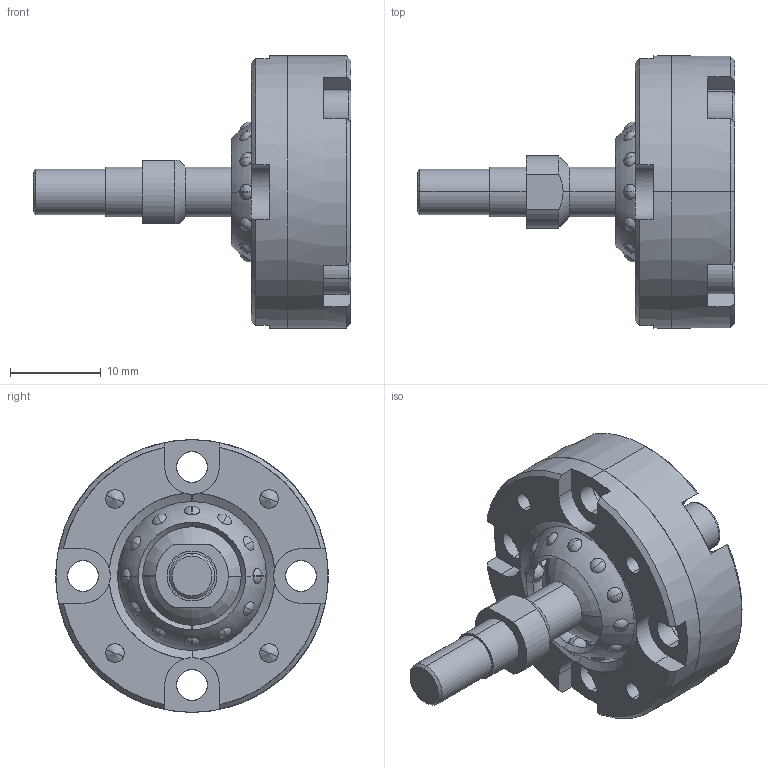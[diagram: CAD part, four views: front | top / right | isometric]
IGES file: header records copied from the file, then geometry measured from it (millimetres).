
Start section: SolidWorks IGES file using analytic representation for surfaces
Global section: file name: C:\Users\render\Documents\CAD Files\SRJ\SRJ008C\SR JOINT - SRJ008C.IGS; native system: SolidWorks 2009; preprocessor: SolidWorks 2009; author: render; date: 100601.153304; units: millimetre
Bounding box: 35 x 30 x 30 mm (x, y, z)
Surface area: 6358.8 mm2 (no closed solid volume)
Topology: 0 solids, 0 shells, 323 faces, 7154 edges, 7073 vertices
Faces by surface type: revolution 228, bspline 95
